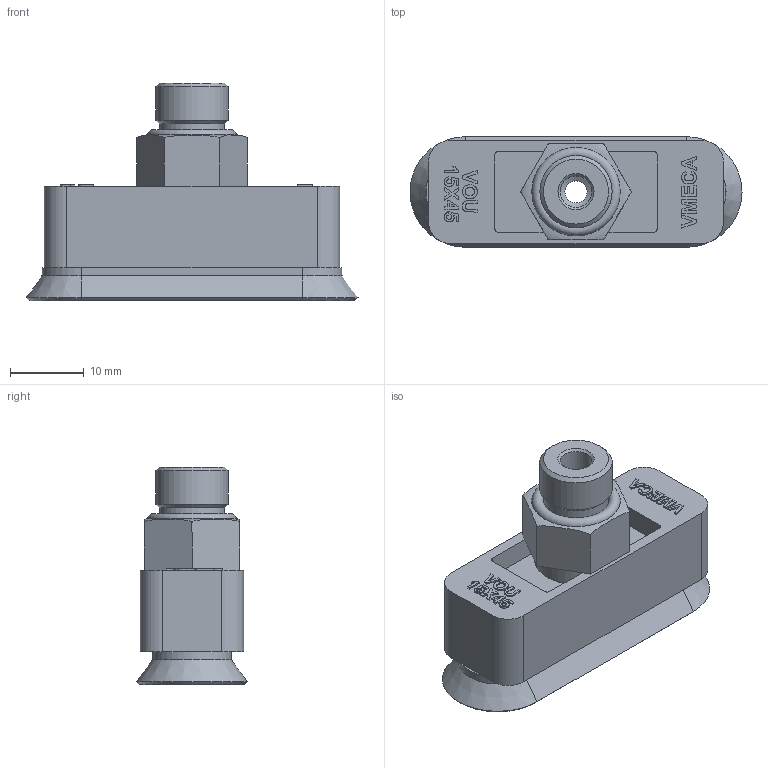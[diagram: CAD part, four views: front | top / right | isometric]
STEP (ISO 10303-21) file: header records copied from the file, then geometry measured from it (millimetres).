
FILE_DESCRIPTION( ( 'Unknown' ), '1' );
FILE_NAME( 'D:/New PAD/PAD-VOU/Part/STEP/VOU 15X45_18M.stp', 'Unknown', ( 'Unknown' ), ( 'Unknown' ), 'XStep 1.0', 'Unknown', ' ' );
FILE_SCHEMA( ( 'automotive_design' ) );
Length unit declared in the file: millimetre
Products named in the file (1): Fitting-PF18M VOU
Bounding box: 45 x 15 x 29.5 mm (x, y, z)
Volume: 8944.2 mm3; surface area: 4273.5 mm2
Topology: 1 solids, 1 shells, 191 faces, 491 edges, 320 vertices
Faces by surface type: extrusion 111, plane 50, cylinder 18, cone 10, revolution 1, torus 1
Full cylindrical faces by diameter (mm): 3 x1, 4.3 x1, 5 x1, 6.5 x1, 8.8 x1, 9.8 x1
Entity records: 8013 total; most frequent: CARTESIAN_POINT 2108, ORIENTED_EDGE 944, DIRECTION 664, EDGE_CURVE 472, VECTOR 401, VERTEX_POINT 317, LINE 290, B_SPLINE_CURVE_WITH_KNOTS 242
